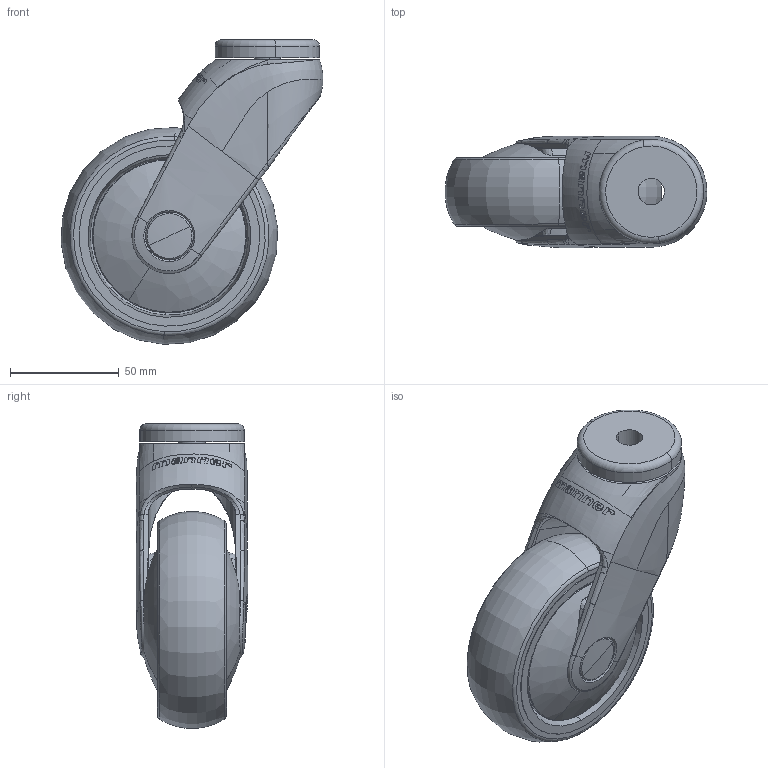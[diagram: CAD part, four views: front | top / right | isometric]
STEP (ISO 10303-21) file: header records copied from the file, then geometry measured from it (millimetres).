
FILE_DESCRIPTION (( 'STEP AP203' ), '1' );
FILE_NAME ('301724.STEP', '2010-03-18T05:15:19', ( ' ' ), ( ' ' ), 'SwSTEP 2.0', 'SolidWorks 2007', '' );
FILE_SCHEMA (( 'CONFIG_CONTROL_DESIGN' ));
Length unit declared in the file: millimetre
Products named in the file (1): 301724
Bounding box: 120.38 x 51.24 x 140.12 mm (x, y, z)
Surface area: 64130.8 mm2 (no closed solid volume)
Topology: 0 solids, 12 shells, 278 faces, 1531 edges, 1238 vertices
Faces by surface type: bspline 130, plane 65, cylinder 37, torus 24, cone 20, sphere 2
Entity records: 50664 total; most frequent: CARTESIAN_POINT 41182, ORIENTED_EDGE 2806, EDGE_CURVE 1525, VERTEX_POINT 1238, B_SPLINE_CURVE_WITH_KNOTS 1108, DIRECTION 800, AXIS2_PLACEMENT_3D 322, EDGE_LOOP 301
